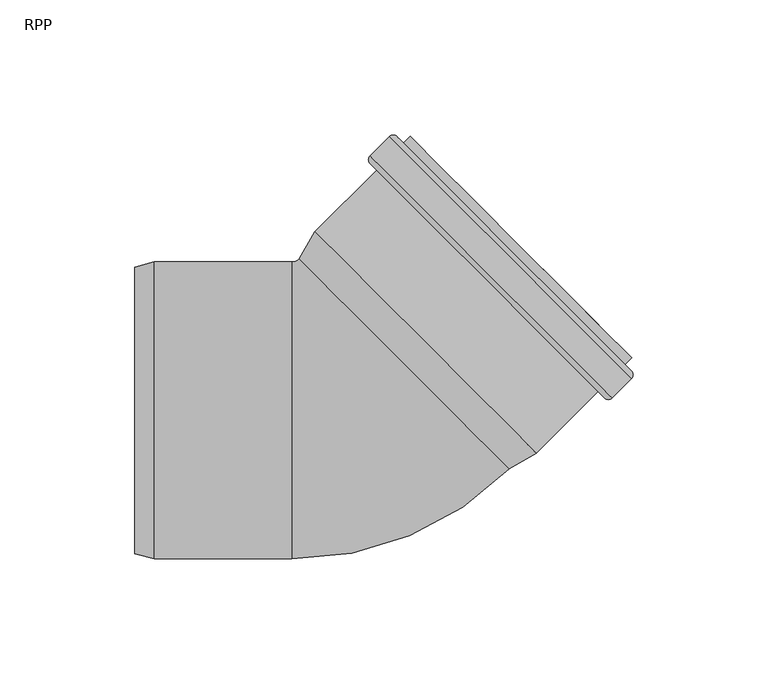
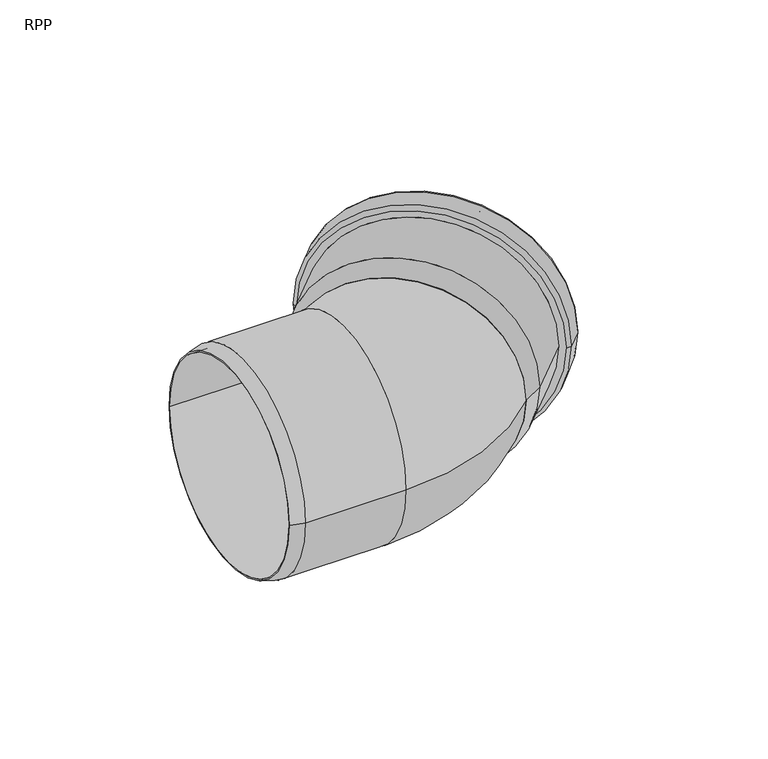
"""IFC4 building model written with IfcOpenShell, lengths in millimetres: pipe fitting geometry, RAUPIANO PLUS Bend : RPP."""

from ifc_helpers import new_model, si_unit, point, frame, origin, place, context, project, spatial, polyline, circle_curve, ellipse_curve, trimmed, source, transform, mapped, element, save
from ifc_brep_helpers import plane_surface, cylinder_surface, revolved_surface, advanced_brep


def rpp_b21e3a91(model_context):
    return source(origin(), model_context, "Body", "AdvancedBrep", [
        advanced_brep(
        [(54.1950357, -19.6336359, 0.0), (-19.6336359, 54.1950357, 0.0), (-13.6540804, 64.5519296, 0.0), (64.5519296, -13.6540804, 0.0), (66.2097685, -15.8146181, 0.0), (-15.8146181, 66.2097685, 0.0), (-21.6101731, 56.1715729, 0.0), (56.1715729, -21.6101731, 0.0), (89.0520382, 7.0276516, 0.0), (7.0276516, 89.0520382, 0.0), (101.4264069, 11.765267, 0.0), (11.765267, 101.4264069, 0.0), (4.6234885, 94.2846284, 0.0), (94.2846284, 4.6234885, 0.0), (101.4971175, 19.4727309, 0.0), (19.4727309, 101.4971175, 0.0), (16.9978572, 99.0222438, 0.0), (99.0222438, 16.9978572, 0.0), (95.2038672, 16.9978572, 0.0), (16.9978572, 95.2038672, 0.0), (21.3819192, 99.5879292, 0.0), (99.5879292, 21.3819192, 0.0), (93.2239682, 7.381205, 0.0), (7.381205, 93.2239682, 0.0), (12.8259272, 98.6686904, 0.0), (98.6686904, 12.8259272, 0.0), (10.8460282, 89.0520382, 0.0), (89.0520382, 10.8460282, 0.0), (4.6234885, 91.4562013, 0.0), (91.4562013, 4.6234885, 0.0), (101.4264069, 14.5936941, 0.0), (14.5936941, 101.4264069, 0.0), (13.533034, 98.6686904, 0.0), (98.6686904, 13.533034, 0.0), (92.5168614, 7.381205, 0.0), (7.381205, 92.5168614, 0.0)],
        [
            (0, 1, circle_curve(frame((17.2806999, 17.2806999, 0.0), z_axis=(-0.7071067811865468, -0.7071067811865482, 0.0), x_axis=(-0.7071067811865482, 0.7071067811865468, 0.0)), 52.2047543)),
            (1, 2),
            (2, 3, circle_curve(frame((25.4489246, 25.4489246, 0.0), z_axis=(0.7071067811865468, 0.7071067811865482, 0.0), x_axis=(-0.7071067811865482, 0.7071067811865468, 0.0)), 55.3)),
            (3, 0),
            (4, 5, circle_curve(frame((25.1975752, 25.1975752, 0.0), z_axis=(-0.7071067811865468, -0.7071067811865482, 0.0), x_axis=(-0.7071067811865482, 0.7071067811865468, 0.0)), 58.0)),
            (5, 6),
            (6, 7, circle_curve(frame((17.2806999, 17.2806999, 0.0), z_axis=(0.7071067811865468, 0.7071067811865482, 0.0), x_axis=(-0.7071067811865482, 0.7071067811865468, 0.0)), 55.0)),
            (7, 4),
            (8, 9, circle_curve(frame((48.0398449, 48.0398449, 0.0), z_axis=(-0.7071067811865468, -0.7071067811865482, 0.0), x_axis=(-0.7071067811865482, 0.7071067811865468, 0.0)), 58.0)),
            (9, 5),
            (4, 8),
            (10, 11, circle_curve(frame((56.5958369, 56.5958369, 0.0), z_axis=(-0.7071067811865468, -0.7071067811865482, 0.0), x_axis=(-0.7071067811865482, 0.7071067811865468, 0.0)), 63.4)),
            (11, 12),
            (12, 13, circle_curve(frame((49.4540585, 49.4540585, 0.0), z_axis=(0.7071067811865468, 0.7071067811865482, 0.0), x_axis=(-0.7071067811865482, 0.7071067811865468, 0.0)), 63.4)),
            (13, 10),
            (14, 15, circle_curve(frame((60.4849242, 60.4849242, 0.0), z_axis=(-0.7071067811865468, -0.7071067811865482, 0.0), x_axis=(-0.7071067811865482, 0.7071067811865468, 0.0)), 58.0)),
            (15, 16),
            (16, 17, circle_curve(frame((58.0100505, 58.0100505, 0.0), z_axis=(0.7071067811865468, 0.7071067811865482, 0.0), x_axis=(-0.7071067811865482, 0.7071067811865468, 0.0)), 58.0)),
            (17, 14),
            (18, 19, circle_curve(frame((56.1008622, 56.1008622, 0.0), z_axis=(-0.7071067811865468, -0.7071067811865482, 0.0), x_axis=(-0.7071067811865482, 0.7071067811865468, 0.0)), 55.3)),
            (19, 20),
            (20, 21, circle_curve(frame((60.4849242, 60.4849242, 0.0), z_axis=(0.7071067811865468, 0.7071067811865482, 0.0), x_axis=(-0.7071067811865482, 0.7071067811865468, 0.0)), 55.3)),
            (21, 18),
            (22, 23, circle_curve(frame((50.3025866, 50.3025866, 0.0), z_axis=(-0.7071067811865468, -0.7071067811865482, 0.0), x_axis=(-0.7071067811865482, 0.7071067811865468, 0.0)), 60.7)),
            (23, 24),
            (24, 25, circle_curve(frame((55.7473088, 55.7473088, 0.0), z_axis=(0.7071067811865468, 0.7071067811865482, 0.0), x_axis=(-0.7071067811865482, 0.7071067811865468, 0.0)), 60.7)),
            (25, 22),
            (2, 26),
            (26, 27, circle_curve(frame((49.9490332, 49.9490332, 0.0), z_axis=(0.7071067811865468, 0.7071067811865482, 0.0), x_axis=(-0.7071067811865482, 0.7071067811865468, 0.0)), 55.3)),
            (27, 3),
            (1, 0, circle_curve(frame((17.2806999, 17.2806999, 0.0), z_axis=(-0.7071067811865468, -0.7071067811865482, 0.0), x_axis=(0.7071067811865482, -0.7071067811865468, 0.0)), 52.2047543)),
            (3, 2, circle_curve(frame((25.4489246, 25.4489246, 0.0), z_axis=(0.7071067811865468, 0.7071067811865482, 0.0), x_axis=(0.7071067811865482, -0.7071067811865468, 0.0)), 55.3)),
            (6, 7, circle_curve(frame((17.2806999, 17.2806999, 0.0), z_axis=(-0.7071067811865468, -0.7071067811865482, 0.0), x_axis=(0.7071067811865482, -0.7071067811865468, 0.0)), 55.0)),
            (5, 4, circle_curve(frame((25.1975752, 25.1975752, 0.0), z_axis=(-0.7071067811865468, -0.7071067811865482, 0.0), x_axis=(0.7071067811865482, -0.7071067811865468, 0.0)), 58.0)),
            (9, 8, circle_curve(frame((48.0398449, 48.0398449, 0.0), z_axis=(-0.7071067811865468, -0.7071067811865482, 0.0), x_axis=(0.7071067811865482, -0.7071067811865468, 0.0)), 58.0)),
            (28, 29, circle_curve(frame((48.0398449, 48.0398449, 0.0), z_axis=(-0.7071067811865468, -0.7071067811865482, 0.0), x_axis=(0.7071067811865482, -0.7071067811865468, 0.0)), 61.4)),
            (29, 28, circle_curve(frame((48.0398449, 48.0398449, 0.0), z_axis=(-0.7071067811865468, -0.7071067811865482, 0.0), x_axis=(-0.7071067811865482, 0.7071067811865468, 0.0)), 61.4)),
            (11, 10, circle_curve(frame((56.5958369, 56.5958369, 0.0), z_axis=(-0.7071067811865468, -0.7071067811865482, 0.0), x_axis=(0.7071067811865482, -0.7071067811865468, 0.0)), 63.4)),
            (13, 12, circle_curve(frame((49.4540585, 49.4540585, 0.0), z_axis=(0.7071067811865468, 0.7071067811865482, 0.0), x_axis=(0.7071067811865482, -0.7071067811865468, 0.0)), 63.4)),
            (30, 31, circle_curve(frame((58.0100505, 58.0100505, 0.0), z_axis=(0.7071067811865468, 0.7071067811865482, 0.0), x_axis=(0.7071067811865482, -0.7071067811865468, 0.0)), 61.4)),
            (31, 30, circle_curve(frame((58.0100505, 58.0100505, 0.0), z_axis=(0.7071067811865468, 0.7071067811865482, 0.0), x_axis=(-0.7071067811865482, 0.7071067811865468, 0.0)), 61.4)),
            (16, 17, circle_curve(frame((58.0100505, 58.0100505, 0.0), z_axis=(-0.7071067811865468, -0.7071067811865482, 0.0), x_axis=(0.7071067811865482, -0.7071067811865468, 0.0)), 58.0)),
            (15, 14, circle_curve(frame((60.4849242, 60.4849242, 0.0), z_axis=(-0.7071067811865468, -0.7071067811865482, 0.0), x_axis=(0.7071067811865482, -0.7071067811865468, 0.0)), 58.0)),
            (20, 21, circle_curve(frame((60.4849242, 60.4849242, 0.0), z_axis=(-0.7071067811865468, -0.7071067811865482, 0.0), x_axis=(0.7071067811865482, -0.7071067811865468, 0.0)), 55.3)),
            (19, 18, circle_curve(frame((56.1008622, 56.1008622, 0.0), z_axis=(-0.7071067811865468, -0.7071067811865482, 0.0), x_axis=(0.7071067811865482, -0.7071067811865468, 0.0)), 55.3)),
            (32, 33, circle_curve(frame((56.1008622, 56.1008622, 0.0), z_axis=(-0.7071067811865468, -0.7071067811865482, 0.0), x_axis=(0.7071067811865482, -0.7071067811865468, 0.0)), 60.2)),
            (33, 32, circle_curve(frame((56.1008622, 56.1008622, 0.0), z_axis=(-0.7071067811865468, -0.7071067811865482, 0.0), x_axis=(-0.7071067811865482, 0.7071067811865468, 0.0)), 60.2)),
            (23, 22, circle_curve(frame((50.3025866, 50.3025866, 0.0), z_axis=(-0.7071067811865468, -0.7071067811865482, 0.0), x_axis=(0.7071067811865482, -0.7071067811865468, 0.0)), 60.7)),
            (25, 24, circle_curve(frame((55.7473088, 55.7473088, 0.0), z_axis=(0.7071067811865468, 0.7071067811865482, 0.0), x_axis=(0.7071067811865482, -0.7071067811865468, 0.0)), 60.7)),
            (34, 35, circle_curve(frame((49.9490332, 49.9490332, 0.0), z_axis=(0.7071067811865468, 0.7071067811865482, 0.0), x_axis=(0.7071067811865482, -0.7071067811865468, 0.0)), 60.2)),
            (35, 34, circle_curve(frame((49.9490332, 49.9490332, 0.0), z_axis=(0.7071067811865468, 0.7071067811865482, 0.0), x_axis=(-0.7071067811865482, 0.7071067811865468, 0.0)), 60.2)),
            (26, 27, circle_curve(frame((49.9490332, 49.9490332, 0.0), z_axis=(-0.7071067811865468, -0.7071067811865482, 0.0), x_axis=(0.7071067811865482, -0.7071067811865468, 0.0)), 55.3)),
            (12, 28, circle_curve(frame((6.0377021, 92.8704148, 0.0), z_axis=(0.0, 0.0, 1.0), x_axis=(0.7071067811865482, -0.7071067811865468, 0.0)), 2.0)),
            (29, 13, circle_curve(frame((92.8704148, 6.0377021, 0.0), z_axis=(0.0, 0.0, 1.0), x_axis=(-0.7071067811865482, 0.7071067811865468, 0.0)), 2.0)),
            (31, 11, circle_curve(frame((13.1794806, 100.0121933, 0.0), z_axis=(0.0, 0.0, 1.0), x_axis=(0.7071067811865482, -0.7071067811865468, 0.0)), 2.0)),
            (10, 30, circle_curve(frame((100.0121933, 13.1794806, 0.0), z_axis=(0.0, 0.0, 1.0), x_axis=(-0.7071067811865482, 0.7071067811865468, 0.0)), 2.0)),
            (24, 32, circle_curve(frame((13.1794806, 98.315137, 0.0), z_axis=(0.0, 0.0, -1.0), x_axis=(0.7071067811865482, -0.7071067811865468, 0.0)), 0.5)),
            (33, 25, circle_curve(frame((98.315137, 13.1794806, 0.0), z_axis=(0.0, 0.0, -1.0), x_axis=(-0.7071067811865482, 0.7071067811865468, 0.0)), 0.5)),
            (35, 23, circle_curve(frame((7.7347584, 92.8704148, 0.0), z_axis=(0.0, 0.0, -1.0), x_axis=(0.7071067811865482, -0.7071067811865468, 0.0)), 0.5)),
            (22, 34, circle_curve(frame((92.8704148, 7.7347584, 0.0), z_axis=(0.0, 0.0, -1.0), x_axis=(-0.7071067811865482, 0.7071067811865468, 0.0)), 0.5)),
        ],
        [
            revolved_surface(polyline([(-13.6540804, 64.5519296, 0.0), (-19.6336359, 54.1950357, 0.0)]), (17.2806999, 17.2806999, 0.0), (0.7071067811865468, 0.7071067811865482, 0.0)),
            revolved_surface(polyline([(-21.6101731, 56.1715729, 0.0), (-15.8146181, 66.2097685, 0.0)]), (17.2806999, 17.2806999, 0.0), (0.7071067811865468, 0.7071067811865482, 0.0)),
            cylinder_surface(frame((17.2806999, 17.2806999, 0.0), z_axis=(0.7071067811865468, 0.7071067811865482, 0.0), x_axis=(-0.7071067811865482, 0.7071067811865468, 0.0)), 58.0),
            cylinder_surface(frame((17.2806999, 17.2806999, 0.0), z_axis=(0.7071067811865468, 0.7071067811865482, 0.0), x_axis=(-0.7071067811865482, 0.7071067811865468, 0.0)), 63.4),
            revolved_surface(polyline([(21.38191920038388, 99.58792919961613, 0.0), (16.9978572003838, 95.20386719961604, 0.0)]), (17.2806999, 17.2806999, 0.0), (0.7071067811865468, 0.7071067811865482, 0.0)),
            revolved_surface(polyline([(12.825927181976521, 98.66869041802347, 0.0), (7.381204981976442, 93.22396821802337, 0.0)]), (17.2806999, 17.2806999, 0.0), (0.7071067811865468, 0.7071067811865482, 0.0)),
            revolved_surface(polyline([(10.84602820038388, 89.0520381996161, 0.0), (-13.654080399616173, 64.551929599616, 0.0)]), (17.2806999, 17.2806999, 0.0), (0.7071067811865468, 0.7071067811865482, 0.0)),
            revolved_surface(polyline([(64.5519296, -13.6540804, 0.0), (54.1950357, -19.6336359, 0.0)]), (17.2806999, 17.2806999, 0.0), (0.7071067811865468, 0.7071067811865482, 0.0)),
            plane_surface(frame((17.2806999, 17.2806999, 0.0), z_axis=(-0.7071067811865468, -0.7071067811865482, 0.0), x_axis=(0.7071067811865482, -0.7071067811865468, 0.0))),
            revolved_surface(polyline([(56.1715729, -21.6101731, 0.0), (66.2097685, -15.8146181, 0.0)]), (17.2806999, 17.2806999, 0.0), (0.7071067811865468, 0.7071067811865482, 0.0)),
            cylinder_surface(frame((17.2806999, 17.2806999, 0.0), z_axis=(0.7071067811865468, 0.7071067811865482, 0.0), x_axis=(0.7071067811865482, -0.7071067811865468, 0.0)), 58.0),
            plane_surface(frame((48.0398449, 48.0398449, 0.0), z_axis=(-0.7071067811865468, -0.7071067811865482, 0.0), x_axis=(0.7071067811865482, -0.7071067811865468, 0.0))),
            cylinder_surface(frame((17.2806999, 17.2806999, 0.0), z_axis=(0.7071067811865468, 0.7071067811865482, 0.0), x_axis=(0.7071067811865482, -0.7071067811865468, 0.0)), 63.4),
            plane_surface(frame((58.0100505, 58.0100505, 0.0), z_axis=(0.7071067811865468, 0.7071067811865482, 0.0), x_axis=(0.7071067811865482, -0.7071067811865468, 0.0))),
            plane_surface(frame((60.4849242, 60.4849242, 0.0), z_axis=(0.7071067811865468, 0.7071067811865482, 0.0), x_axis=(0.7071067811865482, -0.7071067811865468, 0.0))),
            revolved_surface(polyline([(99.58792919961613, 21.38191920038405, 0.0), (95.20386719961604, 16.997857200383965, 0.0)]), (17.2806999, 17.2806999, 0.0), (0.7071067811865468, 0.7071067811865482, 0.0)),
            plane_surface(frame((56.1008622, 56.1008622, 0.0), z_axis=(-0.7071067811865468, -0.7071067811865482, 0.0), x_axis=(0.7071067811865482, -0.7071067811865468, 0.0))),
            revolved_surface(polyline([(98.66869041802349, 12.825927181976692, 0.0), (93.2239682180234, 7.381204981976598, 0.0)]), (17.2806999, 17.2806999, 0.0), (0.7071067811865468, 0.7071067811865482, 0.0)),
            plane_surface(frame((49.9490332, 49.9490332, 0.0), z_axis=(0.7071067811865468, 0.7071067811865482, 0.0), x_axis=(0.7071067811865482, -0.7071067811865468, 0.0))),
            revolved_surface(polyline([(89.05203819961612, 10.846028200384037, 0.0), (64.55192959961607, -13.654080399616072, 0.0)]), (17.2806999, 17.2806999, 0.0), (0.7071067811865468, 0.7071067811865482, 0.0)),
            revolved_surface(trimmed(ellipse_curve(frame((6.0377021, 92.8704148, 0.0), z_axis=(0.0, 0.0, -1.0), x_axis=(0.7071067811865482, -0.7071067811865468, 0.0)), 2.0, 2.0), [point((4.6234885, 91.4562013, 0.0))], [point((4.6234885, 94.2846284, 0.0))], True, "CARTESIAN"), (17.2806999, 17.2806999, 0.0), (0.7071067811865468, 0.7071067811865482, 0.0)),
            revolved_surface(trimmed(ellipse_curve(frame((13.1794806, 100.0121933, 0.0), z_axis=(0.0, 0.0, -1.0), x_axis=(0.7071067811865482, -0.7071067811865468, 0.0)), 2.0, 2.0), [point((11.765267, 101.4264069, 0.0))], [point((14.5936941, 101.4264069, 0.0))], True, "CARTESIAN"), (17.2806999, 17.2806999, 0.0), (0.7071067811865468, 0.7071067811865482, 0.0)),
            revolved_surface(trimmed(ellipse_curve(frame((13.1794806, 98.315137, 0.0), z_axis=(0.0, 0.0, 1.0), x_axis=(0.7071067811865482, -0.7071067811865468, 0.0)), 0.5, 0.5), [point((13.533034, 98.6686904, 0.0))], [point((12.8259272, 98.6686904, 0.0))], True, "CARTESIAN"), (17.2806999, 17.2806999, 0.0), (0.7071067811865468, 0.7071067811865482, 0.0)),
            revolved_surface(trimmed(ellipse_curve(frame((7.7347584, 92.8704148, 0.0), z_axis=(0.0, 0.0, 1.0), x_axis=(0.7071067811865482, -0.7071067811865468, 0.0)), 0.5, 0.5), [point((7.381205, 93.2239682, 0.0))], [point((7.381205, 92.5168614, 0.0))], True, "CARTESIAN"), (17.2806999, 17.2806999, 0.0), (0.7071067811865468, 0.7071067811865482, 0.0)),
            revolved_surface(trimmed(ellipse_curve(frame((92.8704148, 6.0377021, 0.0), z_axis=(0.0, 0.0, 1.0), x_axis=(-0.7071067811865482, 0.7071067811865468, 0.0)), 2.0, 2.0), [point((91.4562013, 4.6234885, 0.0))], [point((94.2846284, 4.6234885, 0.0))], True, "CARTESIAN"), (17.2806999, 17.2806999, 0.0), (0.7071067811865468, 0.7071067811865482, 0.0)),
            revolved_surface(trimmed(ellipse_curve(frame((100.0121933, 13.1794806, 0.0), z_axis=(0.0, 0.0, 1.0), x_axis=(-0.7071067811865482, 0.7071067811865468, 0.0)), 2.0, 2.0), [point((101.4264069, 11.765267, 0.0))], [point((101.4264069, 14.5936941, 0.0))], True, "CARTESIAN"), (17.2806999, 17.2806999, 0.0), (0.7071067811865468, 0.7071067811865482, 0.0)),
            revolved_surface(trimmed(ellipse_curve(frame((98.315137, 13.1794806, 0.0), z_axis=(0.0, 0.0, -1.0), x_axis=(-0.7071067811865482, 0.7071067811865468, 0.0)), 0.5, 0.5), [point((98.6686904, 13.533034, 0.0))], [point((98.6686904, 12.8259272, 0.0))], True, "CARTESIAN"), (17.2806999, 17.2806999, 0.0), (0.7071067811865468, 0.7071067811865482, 0.0)),
            revolved_surface(trimmed(ellipse_curve(frame((92.8704148, 7.7347584, 0.0), z_axis=(0.0, 0.0, -1.0), x_axis=(-0.7071067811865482, 0.7071067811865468, 0.0)), 0.5, 0.5), [point((93.2239682, 7.381205, 0.0))], [point((92.5168614, 7.381205, 0.0))], True, "CARTESIAN"), (17.2806999, 17.2806999, 0.0), (0.7071067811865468, 0.7071067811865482, 0.0)),
        ],
        [
            (0, [[1, 2, 3, 4]]),
            (1, [[5, 6, 7, 8]]),
            (2, [[9, 10, -5, 11]]),
            (3, [[12, 13, 14, 15]]),
            (2, [[16, 17, 18, 19]]),
            (4, [[20, 21, 22, 23]]),
            (5, [[24, 25, 26, 27]]),
            (6, [[-3, 28, 29, 30]]),
            (7, [[31, -4, 32, -2]]),
            (8, [[33, -7], [-31, -1]]),
            (9, [[34, -8, -33, -6]]),
            (10, [[35, -11, -34, -10]]),
            (11, [[36, 37], [-35, -9]]),
            (12, [[38, -15, 39, -13]]),
            (13, [[40, 41], [42, -18]]),
            (10, [[43, -19, -42, -17]]),
            (14, [[-43, -16], [44, -22]]),
            (15, [[45, -23, -44, -21]]),
            (16, [[46, 47], [-45, -20]]),
            (17, [[48, -27, 49, -25]]),
            (18, [[50, 51], [52, -29]]),
            (19, [[-32, -30, -52, -28]]),
            (20, [[-14, 53, -37, 54]]),
            (21, [[-41, 55, -12, 56]]),
            (22, [[-26, 57, -47, 58]]),
            (23, [[-51, 59, -24, 60]]),
            (24, [[-39, -54, -36, -53]]),
            (25, [[-40, -56, -38, -55]]),
            (26, [[-49, -58, -46, -57]]),
            (27, [[-50, -60, -48, -59]]),
        ],
    ),
        advanced_brep(
        [(-24.4386002, 52.3, 0.0), (-24.4386002, -52.3, 0.0), (-82.4386002, -52.3, 0.0), (-82.4386002, 52.3, 0.0), (-75.3477036, 55.0, 0.0), (-75.3477036, -55.0, 0.0), (-24.4386002, -55.0, 0.0), (-24.4386002, 55.0, 0.0), (-82.4386002, 53.1, 0.0), (-82.4386002, -53.1, 0.0)],
        [
            (0, 1, circle_curve(frame((-24.4386002, 0.0, 0.0), z_axis=(1.0, 0.0, 0.0), x_axis=(0.0, -1.0, 0.0)), 52.3)),
            (1, 2),
            (2, 3, circle_curve(frame((-82.4386002, 0.0, 0.0), z_axis=(-1.0, 0.0, 0.0), x_axis=(0.0, -1.0, 0.0)), 52.3)),
            (3, 0),
            (4, 5, circle_curve(frame((-75.3477036, 0.0, 0.0), z_axis=(1.0, 0.0, 0.0), x_axis=(0.0, -1.0, 0.0)), 55.0)),
            (5, 6),
            (6, 7, circle_curve(frame((-24.4386002, 0.0, 0.0), z_axis=(-1.0, 0.0, 0.0), x_axis=(0.0, -1.0, 0.0)), 55.0)),
            (7, 4),
            (8, 9, circle_curve(frame((-82.4386002, 0.0, 0.0), z_axis=(1.0, 0.0, 0.0), x_axis=(0.0, -1.0, 0.0)), 53.1)),
            (9, 5),
            (4, 8),
            (1, 0, circle_curve(frame((-24.4386002, 0.0, 0.0), z_axis=(1.0, 0.0, 0.0), x_axis=(0.0, 1.0, 0.0)), 52.3)),
            (3, 2, circle_curve(frame((-82.4386002, 0.0, 0.0), z_axis=(-1.0, 0.0, 0.0), x_axis=(0.0, 1.0, 0.0)), 52.3)),
            (6, 7, circle_curve(frame((-24.4386002, 0.0, 0.0), z_axis=(1.0, 0.0, 0.0), x_axis=(0.0, 1.0, 0.0)), 55.0)),
            (5, 4, circle_curve(frame((-75.3477036, 0.0, 0.0), z_axis=(1.0, 0.0, 0.0), x_axis=(0.0, 1.0, 0.0)), 55.0)),
            (9, 8, circle_curve(frame((-82.4386002, 0.0, 0.0), z_axis=(1.0, 0.0, 0.0), x_axis=(0.0, 1.0, 0.0)), 53.1)),
        ],
        [
            revolved_surface(polyline([(-82.4386002, -52.3, 0.0), (-24.4386002, -52.3, 0.0)]), (-24.4386002, 0.0, 0.0), (-1.0, 0.0, 0.0)),
            cylinder_surface(frame((-24.4386002, 0.0, 0.0), z_axis=(-1.0, 0.0, 0.0), x_axis=(0.0, -1.0, 0.0)), 55.0),
            revolved_surface(polyline([(-75.3477036, -55.0, 0.0), (-82.4386002, -53.1, 0.0)]), (-24.4386002, 0.0, 0.0), (-1.0, 0.0, 0.0)),
            revolved_surface(polyline([(-82.4386002, 52.3, 0.0), (-24.4386002, 52.3, 0.0)]), (-24.4386002, 0.0, 0.0), (-1.0, 0.0, 0.0)),
            plane_surface(frame((-24.4386002, 0.0, 0.0), z_axis=(1.0, 0.0, 0.0), x_axis=(0.0, 1.0, 0.0))),
            cylinder_surface(frame((-24.4386002, 0.0, 0.0), z_axis=(-1.0, 0.0, 0.0), x_axis=(0.0, 1.0, 0.0)), 55.0),
            revolved_surface(polyline([(-75.3477036, 55.0, 0.0), (-82.4386002, 53.1, 0.0)]), (-24.4386002, 0.0, 0.0), (-1.0, 0.0, 0.0)),
            plane_surface(frame((-82.4386002, 0.0, 0.0), z_axis=(-1.0, 0.0, 0.0), x_axis=(0.0, 1.0, 0.0))),
        ],
        [
            (0, [[1, 2, 3, 4]]),
            (1, [[5, 6, 7, 8]]),
            (2, [[9, 10, -5, 11]]),
            (3, [[12, -4, 13, -2]]),
            (4, [[14, -7], [-12, -1]]),
            (5, [[15, -8, -14, -6]]),
            (6, [[16, -11, -15, -10]]),
            (7, [[-16, -9], [-13, -3]]),
        ],
    ),
        advanced_brep(
        [(-24.4386002, -55.0, 0.0), (-24.4386002, 55.0, 0.0), (-24.4386002, -52.3, 0.0), (-24.4386002, 52.3, 0.0), (56.1715729, -21.6101731, 0.0), (-21.6101731, 56.1715729, 0.0), (54.2623846, -19.7009847, 0.0), (-19.7009847, 54.2623846, 0.0)],
        [
            (0, 1, circle_curve(frame((-24.4386002, 0.0, 0.0), z_axis=(-1.0, 0.0, 0.0), x_axis=(0.0, 1.0, 0.0)), 55.0)),
            (1, 0, circle_curve(frame((-24.4386002, 0.0, 0.0), z_axis=(-1.0, 0.0, 0.0), x_axis=(0.0, 1.0, 0.0)), 55.0)),
            (2, 3, circle_curve(frame((-24.4386002, 0.0, 0.0), z_axis=(1.0, 0.0, 0.0), x_axis=(0.0, 1.0, 0.0)), 52.3)),
            (3, 2, circle_curve(frame((-24.4386002, 0.0, 0.0), z_axis=(1.0, 0.0, 0.0), x_axis=(0.0, 1.0, 0.0)), 52.3)),
            (4, 5, circle_curve(frame((17.2806999, 17.2806999, 0.0), z_axis=(0.7071067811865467, 0.7071067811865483, 0.0), x_axis=(-0.7071067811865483, 0.7071067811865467, 0.0)), 55.0)),
            (5, 4, circle_curve(frame((17.2806999, 17.2806999, 0.0), z_axis=(0.7071067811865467, 0.7071067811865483, 0.0), x_axis=(-0.7071067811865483, 0.7071067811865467, 0.0)), 55.0)),
            (6, 7, circle_curve(frame((17.2806999, 17.2806999, 0.0), z_axis=(-0.7071067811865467, -0.7071067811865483, 0.0), x_axis=(-0.7071067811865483, 0.7071067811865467, 0.0)), 52.3)),
            (7, 6, circle_curve(frame((17.2806999, 17.2806999, 0.0), z_axis=(-0.7071067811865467, -0.7071067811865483, 0.0), x_axis=(-0.7071067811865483, 0.7071067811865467, 0.0)), 52.3)),
            (7, 3, circle_curve(frame((-24.4386002, 59.0, 0.0), z_axis=(0.0, 0.0, -1.0), x_axis=(0.0, -1.0, 0.0)), 6.7)),
            (2, 6, circle_curve(frame((-24.4386002, 59.0, 0.0), z_axis=(0.0, 0.0, 1.0), x_axis=(0.0, -1.0, 0.0)), 111.3)),
            (5, 1, circle_curve(frame((-24.4386002, 59.0, 0.0), z_axis=(0.0, 0.0, -1.0), x_axis=(0.0, -1.0, 0.0)), 4.0)),
            (0, 4, circle_curve(frame((-24.4386002, 59.0, 0.0), z_axis=(0.0, 0.0, 1.0), x_axis=(0.0, -1.0, 0.0)), 114.0)),
        ],
        [
            plane_surface(frame((-24.4386002, 0.0, 0.0), z_axis=(-1.0, 0.0, 0.0), x_axis=(0.0, 0.0, 1.0))),
            plane_surface(frame((17.2806999, 17.2806999, 0.0), z_axis=(0.7071067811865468, 0.7071067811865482, 0.0), x_axis=(0.0, 0.0, 1.0))),
            revolved_surface(trimmed(ellipse_curve(frame((-24.4386002, 0.0, 0.0), z_axis=(1.0, 0.0, 0.0), x_axis=(0.0, 1.0, 0.0)), 52.3, 52.3), [point((-24.4386002, -52.3, 0.0))], [point((-24.4386002, 52.3, 0.0))], True, "CARTESIAN"), (-24.4386002, 59.0, 0.0), (0.0, 0.0, 1.0)),
            revolved_surface(trimmed(ellipse_curve(frame((-24.4386002, 0.0, 0.0), z_axis=(1.0, 0.0, 0.0), x_axis=(0.0, 1.0, 0.0)), 52.3, 52.3), [point((-24.4386002, 52.3, 0.0))], [point((-24.4386002, -52.3, 0.0))], True, "CARTESIAN"), (-24.4386002, 59.0, 0.0), (0.0, 0.0, 1.0)),
            revolved_surface(trimmed(ellipse_curve(frame((-24.4386002, 0.0, 0.0), z_axis=(-1.0, 0.0, 0.0), x_axis=(0.0, 1.0, 0.0)), 55.0, 55.0), [point((-24.4386002, -55.0, 0.0))], [point((-24.4386002, 55.0, 0.0))], True, "CARTESIAN"), (-24.4386002, 59.0, 0.0), (0.0, 0.0, 1.0)),
            revolved_surface(trimmed(ellipse_curve(frame((-24.4386002, 0.0, 0.0), z_axis=(-1.0, 0.0, 0.0), x_axis=(0.0, 1.0, 0.0)), 55.0, 55.0), [point((-24.4386002, 55.0, 0.0))], [point((-24.4386002, -55.0, 0.0))], True, "CARTESIAN"), (-24.4386002, 59.0, 0.0), (0.0, 0.0, 1.0)),
        ],
        [
            (0, [[1, 2], [3, 4]]),
            (1, [[5, 6], [7, 8]]),
            (2, [[9, -3, 10, -8]]),
            (3, [[-10, -4, -9, -7]]),
            (4, [[11, -1, 12, -6]]),
            (5, [[-12, -2, -11, -5]]),
        ],
    ),
    ])


if __name__ == "__main__":
    model = new_model("IFC4")
    model_context = context("Model", 3, world=origin())
    ifc_project = project(units=[si_unit("LENGTHUNIT", "METRE", prefix="MILLI")], contexts=[model_context])
    site = spatial("IfcSite", under=ifc_project)
    building = spatial("IfcBuilding", under=site)
    placement = place(None, origin())
    rpp_shape = rpp_b21e3a91(model_context)
    element("IfcPipeFitting", 1, ObjectType="RAUPIANO PLUS Bend : RPP", at=placement, inside=building, context=model_context, shape_type="MappedRepresentation", body=[
        mapped(rpp_shape, transform((0.0, 0.0, 0.0), x_axis=(1.0, 0.0, 0.0), y_axis=(0.0, 1.0, 0.0), z_axis=(0.0, 0.0, 1.0))),
    ])
    save(model, "model.ifc")
